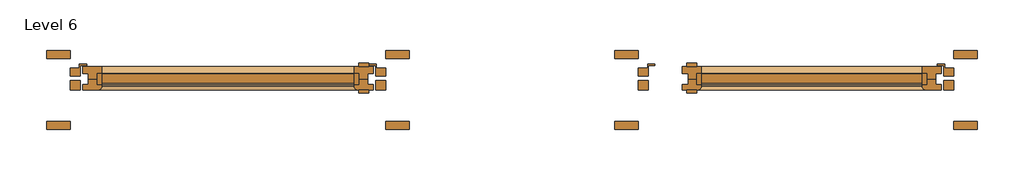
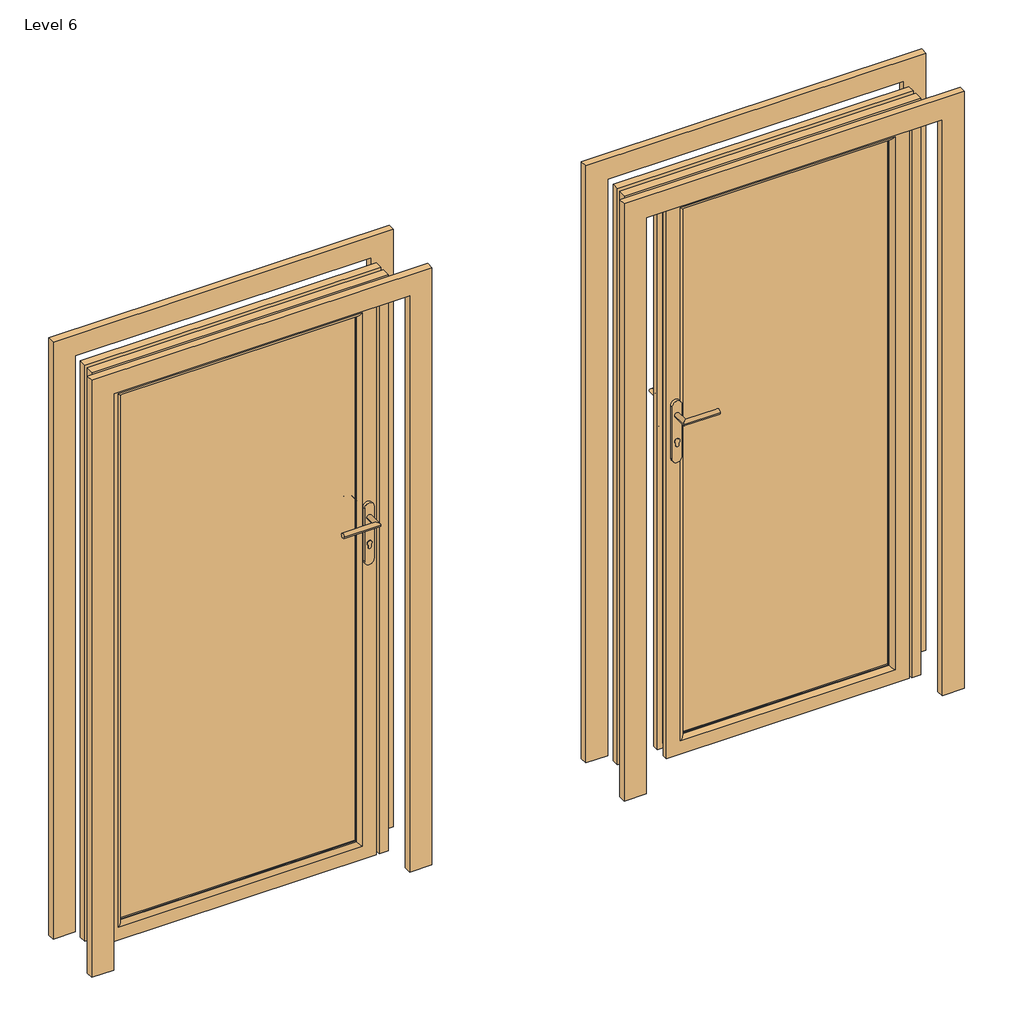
# One storey: 2 doors.
"""IFC4 building model written with IfcOpenShell, lengths in millimetres."""

from ifc_helpers import new_model, si_unit, origin, place, context, project, spatial, transform, mapped, element, save
from components import standard_f8171d75, standard_0da18273

model = new_model("IFC4")

# Units and contexts
model_context = context("Model", 3, world=origin())
ifc_project = project(units=[si_unit("LENGTHUNIT", "METRE", prefix="MILLI")], contexts=[model_context])

# Site, building, storey
site = spatial("IfcSite", under=ifc_project)
building = spatial("IfcBuilding", under=site)
storey = spatial("IfcBuildingStorey", under=building, Name="Level 6", Elevation=15000.0)

# Doors
placement = place(None, origin())
standard_shape = standard_f8171d75(model_context)
element("IfcDoor", 1, ObjectType="SMARTS_Visofold1000 : Standard", at=placement, inside=storey, context=model_context, shape_type="MappedRepresentation", body=[
    mapped(standard_shape, transform((-196262.6139854, 24312.6264647, 15100.0), x_axis=(1.0, 0.0, 0.0), y_axis=(0.0, 1.0, 0.0), z_axis=(0.0, 0.0, 1.0))),
])
standard_2_shape = standard_0da18273(model_context)
element("IfcDoor", 2, ObjectType="SMARTS_Visofold1000 : Standard", at=placement, inside=storey, context=model_context, shape_type="MappedRepresentation", body=[
    mapped(standard_2_shape, transform((-198062.6139854, 24312.6264647, 15100.0), x_axis=(1.0, 0.0, 0.0), y_axis=(0.0, 1.0, 0.0), z_axis=(0.0, 0.0, 1.0))),
])

save(model, "model.ifc")
